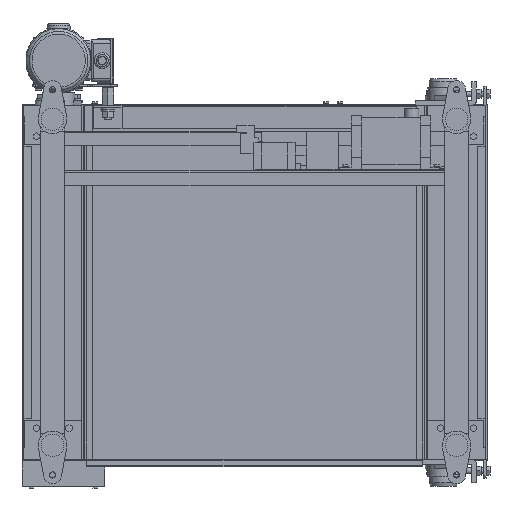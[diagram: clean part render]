
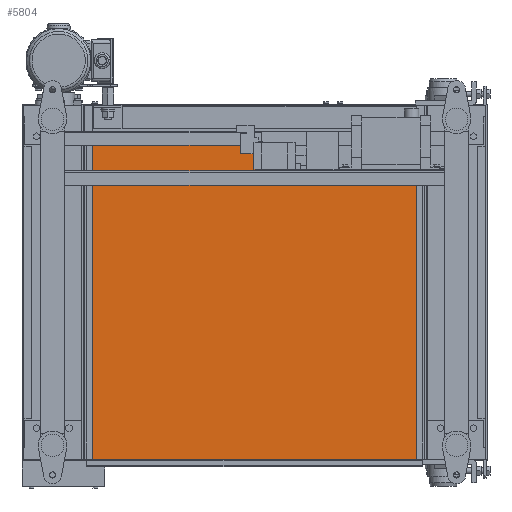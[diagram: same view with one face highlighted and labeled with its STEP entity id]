
A CAD part, front view. The second image highlights one B-rep face of the part: STEP entity #5804.
In plain terms, the highlighted planar face has unit normal (0, -1, 0).
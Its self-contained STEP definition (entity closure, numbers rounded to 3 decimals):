
#5804=ADVANCED_FACE('',(#33577),#33576,.F.);
#33576=PLANE('',#50143);
#33577=FACE_OUTER_BOUND('',#50144,.T.);
#50140=CARTESIAN_POINT('',(862.5,-165.,321.));
#50141=DIRECTION('',(0.,1.,0.));
#50142=DIRECTION('',(0.,0.,-1.));
#50143=AXIS2_PLACEMENT_3D('',#50140,#50141,#50142);
#50144=EDGE_LOOP('',(#66284,#66285,#66286,#66287));
#66284=ORIENTED_EDGE('',*,*,#74634,.F.);
#66285=ORIENTED_EDGE('',*,*,#74640,.F.);
#66286=ORIENTED_EDGE('',*,*,#74641,.F.);
#66287=ORIENTED_EDGE('',*,*,#74642,.F.);
#74634=EDGE_CURVE('',#125193,#125194,#125195,.T.);
#74640=EDGE_CURVE('',#125232,#125193,#125233,.T.);
#74641=EDGE_CURVE('',#125239,#125232,#125240,.T.);
#74642=EDGE_CURVE('',#125194,#125239,#125246,.T.);
#125193=VERTEX_POINT('',#157818);
#125194=VERTEX_POINT('',#157819);
#125195=LINE('',#157820,#157821);
#125232=VERTEX_POINT('',#157839);
#125233=LINE('',#157840,#157841);
#125239=VERTEX_POINT('',#157843);
#125240=LINE('',#157844,#157845);
#125246=LINE('',#157847,#157848);
#157818=CARTESIAN_POINT('',(852.5,-165.,311.));
#157819=CARTESIAN_POINT('',(852.5,-165.,-378.2));
#157820=CARTESIAN_POINT('',(852.5,-165.,311.));
#157821=VECTOR('',#157822,689.2);
#157822=DIRECTION('',(0.,0.,-1.));
#157839=CARTESIAN_POINT('',(137.5,-165.,311.));
#157840=CARTESIAN_POINT('',(137.5,-165.,311.));
#157841=VECTOR('',#157842,715.);
#157842=DIRECTION('',(1.,0.,0.));
#157843=CARTESIAN_POINT('',(137.5,-165.,-378.2));
#157844=CARTESIAN_POINT('',(137.5,-165.,-378.2));
#157845=VECTOR('',#157846,689.2);
#157846=DIRECTION('',(0.,0.,1.));
#157847=CARTESIAN_POINT('',(852.5,-165.,-378.2));
#157848=VECTOR('',#157849,715.);
#157849=DIRECTION('',(-1.,0.,0.));
